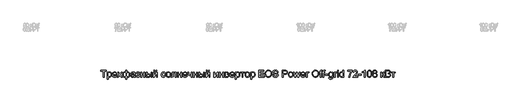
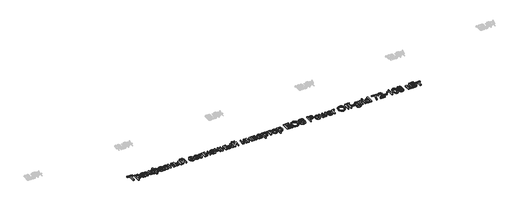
# One storey, part 17 of 26: 1 proxy.
"""IFC4 building model written with IfcOpenShell, lengths in millimetres."""

from ifc_helpers import new_model, si_unit, origin, origin_with_axes, place, context, project, spatial, polyline, outline, extrude, element, save

model = new_model("IFC4")

# Units and contexts
model_context = context("Model", 3, world=origin())
ifc_project = project(units=[si_unit("LENGTHUNIT", "METRE", prefix="MILLI")], contexts=[model_context])

# Site, building, storey
site = spatial("IfcSite", under=ifc_project)
building = spatial("IfcBuilding", under=site)
storey = spatial("IfcBuildingStorey", under=building, Name="Этаж 01", Elevation=0.0)

# Proxy
placement = place(None, origin())
element("IfcBuildingElementProxy", 1, Name="150 мм Arial", ObjectType="150 мм Arial", at=placement, inside=storey, context=model_context, shape_type="SweptSolid", body=[
    extrude(outline(polyline([(3527.3041906, -12495.0508328), (3527.3041906, -12363.2019258), (3477.8608505, -12363.2019258), (3477.8608505, -12344.3663676), (3595.5830889, -12344.3663676), (3595.5830889, -12363.2019258), (3546.1397488, -12363.2019258), (3546.1397488, -12495.0508328), (3527.3041906, -12495.0508328)])), origin_with_axes(), (0.0, 0.0, 1.0), 20.0),
    extrude(outline(polyline([(3614.4186471, -12537.4308387), (3614.4186471, -12384.3919287), (3633.2542052, -12384.3919287), (3633.2542052, -12402.8596048), (3646.2772278, -12387.2430141), (3663.8619872, -12382.0374839), (3676.5999013, -12383.8584998), (3687.7375287, -12389.3215474), (3696.8058199, -12398.095533), (3703.3357253, -12409.8493627), (3708.5964378, -12438.8752522), (3707.1111143, -12454.983885), (3702.6551436, -12469.3910637), (3695.3710801, -12481.3656226), (3685.401478, -12490.1763964), (3673.7902026, -12495.5980573), (3661.5811188, -12497.4052776), (3645.191976, -12492.5676294), (3633.2542052, -12480.335553), (3633.2542052, -12537.4308387), (3614.4186471, -12537.4308387)]), holes=[polyline([(3633.2542052, -12440.6042975), (3635.2913518, -12457.4900811), (3641.4027914, -12469.2990932), (3650.4204988, -12476.2520629), (3661.1764486, -12478.5697194), (3672.1071424, -12476.1692894), (3681.3547761, -12468.9679994), (3687.6593538, -12456.726726), (3689.7608797, -12439.206346), (3687.7099375, -12422.4125329), (3681.5571112, -12410.4379739), (3672.5531993, -12403.264275), (3661.9490008, -12400.8730421), (3651.3034156, -12403.4160263), (3641.9546144, -12411.0449792), (3635.4293075, -12423.5207774), (3633.2542052, -12440.6042975)])]), origin_with_axes(), (0.0, 0.0, 1.0), 20.0),
    extrude(outline(polyline([(3807.2623889, -12462.0886061), (3825.7300651, -12464.4430508), (3819.0759995, -12478.3581873), (3808.4580054, -12488.7600507), (3794.1152061, -12495.2439709), (3776.2867249, -12497.4052776), (3754.1862141, -12493.6758739), (3737.1808689, -12482.4876627), (3726.337547, -12464.567211), (3722.7231064, -12440.6410857), (3726.3743352, -12415.9102186), (3737.3280216, -12397.4149513), (3754.1034406, -12385.8818508), (3775.2198672, -12382.0374839), (3795.6787046, -12385.8726537), (3812.0264608, -12397.3781631), (3822.7456224, -12415.8366422), (3826.3186763, -12440.5307211), (3826.2083117, -12445.6074927), (3741.5586646, -12445.6074927), (3744.8190188, -12459.7065701), (3752.3927894, -12470.0716453), (3763.3234831, -12476.4452009), (3776.6546069, -12478.5697194), (3795.1222831, -12474.6333821), (3807.2623889, -12462.0886061)]), holes=[polyline([(3741.5586646, -12426.7719345), (3807.4831181, -12426.7719345), (3804.9355353, -12416.8207265), (3799.9415372, -12409.7022099), (3788.9602597, -12403.080334), (3775.1462908, -12400.8730421), (3762.4497634, -12402.6342771), (3751.951331, -12407.9179823), (3744.6534719, -12416.1539404), (3741.5586646, -12426.7719345)])]), origin_with_axes(), (0.0, 0.0, 1.0), 20.0),
    extrude(outline(polyline([(3833.3820106, -12495.0508328), (3873.6283009, -12439.4270752), (3835.7364554, -12384.3919287), (3858.3979863, -12384.3919287), (3876.6817214, -12410.8794323), (3885.2165837, -12423.3874202), (3892.6110118, -12413.1603007), (3913.4331327, -12384.3919287), (3936.0946636, -12384.3919287), (3896.2898318, -12439.4270752), (3934.6231357, -12495.0508328), (3911.9616048, -12495.0508328), (3888.8954037, -12461.6103595), (3884.6647607, -12455.5035183), (3856.0435415, -12495.0508328), (3833.3820106, -12495.0508328)])), origin_with_axes(), (0.0, 0.0, 1.0), 20.0),
    extrude(outline(polyline([(4014.6742578, -12344.3663676), (4033.509816, -12344.3663676), (4033.509816, -12395.0237183), (4045.4843749, -12385.2564514), (4059.519073, -12382.0374839), (4076.0047849, -12386.1301711), (4088.6737211, -12398.4082327), (4096.7441324, -12416.8943029), (4099.4342695, -12439.6110161), (4096.5371988, -12463.0221066), (4087.8459867, -12481.4575931), (4074.8505552, -12493.4183565), (4059.0408264, -12497.4052776), (4047.52612, -12495.5658676), (4033.509816, -12485.5226891), (4033.509816, -12537.4308387), (4014.6742578, -12537.4308387), (4014.6742578, -12485.5226891), (4002.6445166, -12494.4254334), (3988.4074834, -12497.4052776), (3972.6253458, -12493.5976989), (3958.9769237, -12482.174963), (3949.5407506, -12463.6613016), (3946.3953595, -12438.5809466), (3949.2418464, -12416.4988298), (3957.7813073, -12398.2978681), (3971.1308252, -12386.10258), (3988.4074834, -12382.0374839), (4002.9940045, -12385.2564514), (4014.6742578, -12395.0237183), (4014.6742578, -12344.3663676)]), holes=[polyline([(3965.2309177, -12438.1762764), (3967.1163129, -12456.6531496), (3972.7724986, -12469.1151522), (3981.2245874, -12476.2060776), (3991.4976921, -12478.5697194), (4001.7202131, -12476.2198732), (4008.990481, -12469.1703345), (4013.3360871, -12457.4211032), (4014.7846224, -12440.9721795), (4013.2625107, -12423.4288069), (4008.6961754, -12410.8978264), (4001.0580255, -12403.3792381), (3990.3204697, -12400.8730421), (3980.2405031, -12403.3194573), (3972.2206756, -12410.6587031), (3966.9783571, -12422.430927), (3965.2309177, -12438.1762764)]), polyline([(4033.3994514, -12440.0524745), (4034.9675484, -12459.1225575), (4039.6718394, -12470.7154388), (4046.7397722, -12476.6061493), (4055.3987947, -12478.5697194), (4065.0786897, -12476.1554938), (4073.2226773, -12468.9128171), (4078.7547028, -12456.5841717), (4080.5987113, -12438.9120404), (4078.8972571, -12422.1550155), (4073.7928944, -12410.2908211), (4066.0213873, -12403.2274868), (4056.3184997, -12400.8730421), (4046.325905, -12403.3240558), (4039.1568046, -12410.6770972), (4034.8387897, -12422.9229691), (4033.3994514, -12440.0524745)])]), origin_with_axes(), (0.0, 0.0, 1.0), 20.0),
    extrude(outline(polyline([(4193.6120603, -12480.9241642), (4175.3467192, -12493.6896694), (4155.1683918, -12497.4052776), (4139.4276409, -12495.1703945), (4127.8163654, -12488.4657451), (4120.6564621, -12478.2846109), (4118.2698277, -12465.6202732), (4121.8750712, -12450.7210524), (4131.3480326, -12439.9053217), (4144.5366021, -12433.7249042), (4160.8337745, -12430.8922129), (4193.5016957, -12424.4174897), (4193.6120603, -12420.223635), (4192.3152762, -12411.8175314), (4188.4249241, -12406.3176956), (4179.7245149, -12402.2342054), (4167.6028032, -12400.8730421), (4148.5465159, -12404.4966797), (4139.4598306, -12417.3541554), (4120.6242724, -12414.9997107), (4128.7728586, -12396.6056109), (4145.1803956, -12385.8266685), (4170.0308244, -12382.0374839), (4192.8579022, -12385.3852101), (4205.7521661, -12393.7913136), (4211.5279134, -12406.575213), (4212.4476184, -12423.0563264), (4212.4476184, -12446.4904095), (4213.4041116, -12479.2135129), (4217.156508, -12495.0508328), (4198.3209498, -12495.0508328), (4193.6120603, -12480.9241642)]), holes=[polyline([(4193.6120603, -12443.2530479), (4163.2250075, -12449.0287952), (4147.0198056, -12452.0822158), (4139.6805598, -12457.0486227), (4137.1053858, -12464.295898), (4142.7155862, -12474.4862293), (4159.1783055, -12478.5697194), (4178.2345929, -12474.063165), (4190.5218515, -12463.1554638), (4193.5016957, -12448.5873368), (4193.6120603, -12443.2530479)])]), origin_with_axes(), (0.0, 0.0, 1.0), 20.0),
    extrude(outline(polyline([(4264.2454033, -12445.6074927), (4264.2454033, -12426.7719345), (4279.1078359, -12426.0361705), (4286.6126286, -12422.1182273), (4290.1442958, -12413.9328529), (4285.4170122, -12404.4231033), (4273.221724, -12400.8730421), (4260.6217657, -12404.4047092), (4252.4731795, -12414.9997107), (4231.2831766, -12412.6452659), (4236.902574, -12399.2543613), (4245.4466334, -12389.6894294), (4256.9153546, -12383.9504703), (4271.3087376, -12382.0374839), (4287.054087, -12384.368936), (4298.9734637, -12391.3632925), (4306.4782564, -12401.5950105), (4308.979854, -12413.6385473), (4305.4205957, -12425.3371947), (4294.7428207, -12434.3870918), (4307.1956263, -12446.1225275), (4311.3342987, -12463.008311), (4308.708541, -12476.8728637), (4300.8312678, -12487.8587398), (4288.235908, -12495.0186431), (4271.4558904, -12497.4052776), (4255.0437549, -12495.1979856), (4242.4851833, -12488.5761097), (4233.7801756, -12477.5396499), (4228.9287318, -12462.0886061), (4250.1187347, -12459.7341613), (4258.6168088, -12473.6401007), (4273.2585122, -12478.5697194), (4287.0172988, -12473.8424358), (4292.4987406, -12461.7575123), (4289.0958321, -12451.8614866), (4281.8485568, -12446.5639859), (4267.9242233, -12445.4971281), (4264.2454033, -12445.6074927)])), origin_with_axes(), (0.0, 0.0, 1.0), 20.0),
    extrude(outline(polyline([(4334.8787464, -12384.3919287), (4353.7143046, -12384.3919287), (4353.7143046, -12426.7719345), (4403.1576447, -12426.7719345), (4403.1576447, -12384.3919287), (4421.9932029, -12384.3919287), (4421.9932029, -12495.0508328), (4403.1576447, -12495.0508328), (4403.1576447, -12445.6074927), (4353.7143046, -12445.6074927), (4353.7143046, -12495.0508328), (4334.8787464, -12495.0508328), (4334.8787464, -12384.3919287)])), origin_with_axes(), (0.0, 0.0, 1.0), 20.0),
    extrude(outline(polyline([(4553.8421099, -12384.3919287), (4572.6776681, -12384.3919287), (4572.6776681, -12495.0508328), (4553.8421099, -12495.0508328), (4553.8421099, -12384.3919287)])), origin_with_axes(), (0.0, 0.0, 1.0), 20.0),
    extrude(outline(polyline([(4450.2465401, -12384.3919287), (4469.0820983, -12384.3919287), (4469.0820983, -12424.4174897), (4492.3690285, -12424.4174897), (4512.4967722, -12426.776533), (4527.4097886, -12433.8536629), (4536.6390281, -12445.0786623), (4539.7154413, -12459.8813141), (4537.1356688, -12473.3595907), (4529.3963514, -12484.7317429), (4515.9916512, -12492.4710603), (4496.4157305, -12495.0508328), (4450.2465401, -12495.0508328), (4450.2465401, -12384.3919287)]), holes=[polyline([(4469.0820983, -12476.2152747), (4488.4326912, -12476.2152747), (4513.4118787, -12472.2605432), (4519.0128821, -12467.1975673), (4520.8798832, -12459.9181023), (4515.3432591, -12448.3298194), (4506.4635075, -12444.5222408), (4490.8975006, -12443.2530479), (4469.0820983, -12443.2530479), (4469.0820983, -12476.2152747)])]), origin_with_axes(), (0.0, 0.0, 1.0), 20.0),
    extrude(outline(polyline([(4600.9310053, -12384.3919287), (4619.7665635, -12384.3919287), (4619.7665635, -12468.7840584), (4666.0461185, -12384.3919287), (4690.3999066, -12384.3919287), (4690.3999066, -12495.0508328), (4671.5643484, -12495.0508328), (4671.5643484, -12411.1737379), (4625.579099, -12495.0508328), (4600.9310053, -12495.0508328), (4600.9310053, -12384.3919287)])), origin_with_axes(), (0.0, 0.0, 1.0), 20.0),
    extrude(outline(polyline([(4662.1465693, -12344.3663676), (4676.2732379, -12344.3663676), (4673.233613, -12356.4282985), (4667.1313704, -12365.3172472), (4658.2424216, -12370.7940904), (4646.8426783, -12372.6197048), (4634.4726462, -12370.807886), (4624.8801232, -12365.3724295), (4618.3226266, -12356.4972764), (4615.0576739, -12344.3663676), (4629.1843426, -12344.3663676), (4634.4818433, -12354.9797632), (4645.1504211, -12358.4930362), (4656.8490686, -12355.0901278), (4662.1465693, -12344.3663676)])), origin_with_axes(), (0.0, 0.0, 1.0), 20.0),
    extrude(outline(polyline([(4848.1477061, -12455.0252717), (4866.9832642, -12457.3797165), (4861.7317488, -12474.1321429), (4851.8633142, -12486.791882), (4838.3068627, -12494.7519287), (4821.9912962, -12497.4052776), (4801.9555231, -12493.703465), (4786.2883486, -12482.5980273), (4776.1761923, -12464.576408), (4772.8054735, -12440.1260509), (4774.2448118, -12423.3644275), (4778.5628267, -12408.8376873), (4785.8284961, -12397.1068501), (4796.1107979, -12388.7329362), (4808.4118521, -12383.711347), (4821.7337788, -12382.0374839), (4837.6492736, -12384.3367464), (4850.3733922, -12391.2345338), (4859.5014642, -12402.3629641), (4864.6288195, -12417.3541554), (4845.7932613, -12419.7086002), (4837.0560639, -12405.6003257), (4821.8809316, -12400.8730421), (4809.7086361, -12403.1998957), (4800.0471352, -12410.1804565), (4793.7425575, -12422.1918037), (4791.6410316, -12439.6110161), (4793.6965723, -12457.2647534), (4799.8631942, -12469.3174873), (4809.3499512, -12476.2566614), (4821.3658968, -12478.5697194), (4831.1193682, -12477.1257826), (4839.1162031, -12472.7939721), (4844.9333372, -12465.4639234), (4848.1477061, -12455.0252717)])), origin_with_axes(), (0.0, 0.0, 1.0), 20.0),
    extrude(outline(polyline([(4878.7554881, -12439.7213807), (4882.8297812, -12413.040739), (4895.0526605, -12394.2879543), (4910.1542164, -12385.1001015), (4928.2356164, -12382.0374839), (4948.0230693, -12385.7668876), (4963.8281995, -12396.9550988), (4974.1886762, -12414.7192007), (4977.6421684, -12438.1762764), (4976.1154581, -12457.2049726), (4971.5353273, -12471.6903261), (4964.0351331, -12482.5382465), (4953.7482328, -12490.654643), (4941.529952, -12495.7176189), (4928.2356164, -12497.4052776), (4908.2090403, -12493.6896694), (4892.4223042, -12482.542845), (4882.1721921, -12464.4062626), (4878.7554881, -12439.7213807)]), holes=[polyline([(4897.5910462, -12439.6845925), (4899.7707471, -12456.7313245), (4906.3098495, -12468.8760289), (4916.1506929, -12476.1462968), (4928.2356164, -12478.5697194), (4940.2653577, -12476.1325012), (4950.0878069, -12468.8208466), (4956.6269094, -12456.5151938), (4958.8066102, -12439.0959814), (4956.6131138, -12422.5458901), (4950.0326246, -12410.5667326), (4940.1963798, -12403.2964647), (4928.2356164, -12400.8730421), (4916.1506929, -12403.2872677), (4906.3098495, -12410.5299444), (4899.7707471, -12422.6470576), (4897.5910462, -12439.6845925)])]), origin_with_axes(), (0.0, 0.0, 1.0), 20.0),
    extrude(outline(polyline([(5008.2499504, -12384.3919287), (5093.0099621, -12384.3919287), (5093.0099621, -12494.9404682), (5074.1744039, -12494.9404682), (5074.1744039, -12403.2274868), (5027.0855085, -12403.2274868), (5027.0855085, -12456.0185531), (5025.8163157, -12480.3723412), (5018.8449518, -12490.654643), (5002.3638385, -12495.0508328), (4987.0599475, -12494.0943396), (4987.0599475, -12476.2152747), (4995.4844452, -12476.2152747), (5004.0009133, -12475.0564464), (5007.4038218, -12471.3776264), (5008.2499504, -12454.9516953), (5008.2499504, -12384.3919287)])), origin_with_axes(), (0.0, 0.0, 1.0), 20.0),
    extrude(outline(polyline([(5121.2632993, -12384.3919287), (5140.0988575, -12384.3919287), (5140.0988575, -12426.7719345), (5189.5421976, -12426.7719345), (5189.5421976, -12384.3919287), (5208.3777558, -12384.3919287), (5208.3777558, -12495.0508328), (5189.5421976, -12495.0508328), (5189.5421976, -12445.6074927), (5140.0988575, -12445.6074927), (5140.0988575, -12495.0508328), (5121.2632993, -12495.0508328), (5121.2632993, -12384.3919287)])), origin_with_axes(), (0.0, 0.0, 1.0), 20.0),
    extrude(outline(polyline([(5314.1070412, -12462.0886061), (5332.5747173, -12464.4430508), (5325.9206517, -12478.3581873), (5315.3026577, -12488.7600507), (5300.9598584, -12495.2439709), (5283.1313772, -12497.4052776), (5261.0308663, -12493.6758739), (5244.0255211, -12482.4876627), (5233.1821993, -12464.567211), (5229.5677587, -12440.6410857), (5233.2189875, -12415.9102186), (5244.1726739, -12397.4149513), (5260.9480929, -12385.8818508), (5282.0645194, -12382.0374839), (5302.5233569, -12385.8726537), (5318.871113, -12397.3781631), (5329.5902746, -12415.8366422), (5333.1633285, -12440.5307211), (5333.0529639, -12445.6074927), (5248.4033168, -12445.6074927), (5251.663671, -12459.7065701), (5259.2374416, -12470.0716453), (5270.1681354, -12476.4452009), (5283.4992592, -12478.5697194), (5301.9669353, -12474.6333821), (5314.1070412, -12462.0886061)]), holes=[polyline([(5248.4033168, -12426.7719345), (5314.3277704, -12426.7719345), (5311.7801876, -12416.8207265), (5306.7861895, -12409.7022099), (5295.8049119, -12403.080334), (5281.990943, -12400.8730421), (5269.2944156, -12402.6342771), (5258.7959832, -12407.9179823), (5251.4981241, -12416.1539404), (5248.4033168, -12426.7719345)])]), origin_with_axes(), (0.0, 0.0, 1.0), 20.0),
    extrude(outline(polyline([(5344.9355524, -12384.3919287), (5363.7711105, -12384.3919287), (5363.7711105, -12405.6187198), (5365.2978208, -12425.5211357), (5372.6370666, -12436.3000782), (5387.2051936, -12440.8986031), (5413.2144507, -12435.1964322), (5413.2144507, -12384.3919287), (5432.0500088, -12384.3919287), (5432.0500088, -12495.0508328), (5413.2144507, -12495.0508328), (5413.2144507, -12453.2594382), (5382.1652103, -12459.7341613), (5370.774664, -12458.0465026), (5360.8096605, -12452.9835267), (5353.0427518, -12445.4741354), (5348.2464903, -12436.447231), (5344.9355524, -12414.9261343), (5344.9355524, -12384.3919287)])), origin_with_axes(), (0.0, 0.0, 1.0), 20.0),
    extrude(outline(polyline([(5460.3033461, -12384.3919287), (5479.1389042, -12384.3919287), (5479.1389042, -12426.7719345), (5528.5822444, -12426.7719345), (5528.5822444, -12384.3919287), (5547.4178025, -12384.3919287), (5547.4178025, -12495.0508328), (5528.5822444, -12495.0508328), (5528.5822444, -12445.6074927), (5479.1389042, -12445.6074927), (5479.1389042, -12495.0508328), (5460.3033461, -12495.0508328), (5460.3033461, -12384.3919287)])), origin_with_axes(), (0.0, 0.0, 1.0), 20.0),
    extrude(outline(polyline([(5679.2667096, -12384.3919287), (5698.1022677, -12384.3919287), (5698.1022677, -12495.0508328), (5679.2667096, -12495.0508328), (5679.2667096, -12384.3919287)])), origin_with_axes(), (0.0, 0.0, 1.0), 20.0),
    extrude(outline(polyline([(5575.6711397, -12384.3919287), (5594.5066979, -12384.3919287), (5594.5066979, -12424.4174897), (5617.7936282, -12424.4174897), (5637.9213719, -12426.776533), (5652.8343882, -12433.8536629), (5662.0636278, -12445.0786623), (5665.140041, -12459.8813141), (5662.5602685, -12473.3595907), (5654.820951, -12484.7317429), (5641.4162508, -12492.4710603), (5621.8403301, -12495.0508328), (5575.6711397, -12495.0508328), (5575.6711397, -12384.3919287)]), holes=[polyline([(5594.5066979, -12476.2152747), (5613.8572908, -12476.2152747), (5638.8364783, -12472.2605432), (5644.4374817, -12467.1975673), (5646.3044828, -12459.9181023), (5640.7678588, -12448.3298194), (5631.8881071, -12444.5222408), (5616.3221002, -12443.2530479), (5594.5066979, -12443.2530479), (5594.5066979, -12476.2152747)])]), origin_with_axes(), (0.0, 0.0, 1.0), 20.0),
    extrude(outline(polyline([(5726.355605, -12384.3919287), (5745.1911631, -12384.3919287), (5745.1911631, -12468.7840584), (5791.4707181, -12384.3919287), (5815.8245062, -12384.3919287), (5815.8245062, -12495.0508328), (5796.988948, -12495.0508328), (5796.988948, -12411.1737379), (5751.0036986, -12495.0508328), (5726.355605, -12495.0508328), (5726.355605, -12384.3919287)])), origin_with_axes(), (0.0, 0.0, 1.0), 20.0),
    extrude(outline(polyline([(5787.571169, -12344.3663676), (5801.6978376, -12344.3663676), (5798.6582126, -12356.4282985), (5792.55597, -12365.3172472), (5783.6670213, -12370.7940904), (5772.267278, -12372.6197048), (5759.8972459, -12370.807886), (5750.3047229, -12365.3724295), (5743.7472263, -12356.4972764), (5740.4822736, -12344.3663676), (5754.6089422, -12344.3663676), (5759.9064429, -12354.9797632), (5770.5750208, -12358.4930362), (5782.2736682, -12355.0901278), (5787.571169, -12344.3663676)])), origin_with_axes(), (0.0, 0.0, 1.0), 20.0),
    extrude(outline(polyline([(5902.9389627, -12384.3919287), (5921.7745208, -12384.3919287), (5921.7745208, -12468.7840584), (5968.0540758, -12384.3919287), (5992.4078639, -12384.3919287), (5992.4078639, -12495.0508328), (5973.5723057, -12495.0508328), (5973.5723057, -12411.1737379), (5927.5870563, -12495.0508328), (5902.9389627, -12495.0508328), (5902.9389627, -12384.3919287)])), origin_with_axes(), (0.0, 0.0, 1.0), 20.0),
    extrude(outline(polyline([(6020.6612011, -12384.3919287), (6039.4967593, -12384.3919287), (6039.4967593, -12426.7719345), (6088.9400994, -12426.7719345), (6088.9400994, -12384.3919287), (6107.7756576, -12384.3919287), (6107.7756576, -12495.0508328), (6088.9400994, -12495.0508328), (6088.9400994, -12445.6074927), (6039.4967593, -12445.6074927), (6039.4967593, -12495.0508328), (6020.6612011, -12495.0508328), (6020.6612011, -12384.3919287)])), origin_with_axes(), (0.0, 0.0, 1.0), 20.0),
    extrude(outline(polyline([(6136.0289948, -12384.3919287), (6177.5260839, -12384.3919287), (6200.2795853, -12386.9119203), (6213.0818787, -12396.1457584), (6218.4345617, -12412.2405957), (6215.1972002, -12425.3188006), (6205.4483273, -12434.6446092), (6218.1034679, -12444.8533346), (6223.1434513, -12462.6036408), (6219.9520749, -12476.9602357), (6212.3645088, -12487.0677935), (6200.3531617, -12493.055073), (6183.8904424, -12495.0508328), (6136.0289948, -12495.0508328), (6136.0289948, -12384.3919287)]), holes=[polyline([(6154.864553, -12426.7719345), (6173.4793819, -12426.7719345), (6188.8384552, -12425.8154413), (6196.3064597, -12421.9894686), (6199.5990036, -12415.0732871), (6198.1550667, -12409.4538896), (6193.8232562, -12405.839449), (6174.0679931, -12403.2274868), (6154.864553, -12403.2274868), (6154.864553, -12426.7719345)]), polyline([(6154.864553, -12476.2152747), (6177.9675423, -12476.2152747), (6198.4585694, -12472.8123662), (6202.6984094, -12468.1724545), (6204.3078931, -12461.0585365), (6201.0889256, -12451.9902453), (6192.7012162, -12446.7111387), (6176.1281323, -12445.6074927), (6154.864553, -12445.6074927), (6154.864553, -12476.2152747)])]), origin_with_axes(), (0.0, 0.0, 1.0), 20.0),
    extrude(outline(polyline([(6324.1638471, -12462.0886061), (6342.6315233, -12464.4430508), (6335.9774577, -12478.3581873), (6325.3594636, -12488.7600507), (6311.0166643, -12495.2439709), (6293.1881831, -12497.4052776), (6271.0876723, -12493.6758739), (6254.0823271, -12482.4876627), (6243.2390052, -12464.567211), (6239.6245646, -12440.6410857), (6243.2757934, -12415.9102186), (6254.2294799, -12397.4149513), (6271.0048988, -12385.8818508), (6292.1213254, -12382.0374839), (6312.5801628, -12385.8726537), (6328.927919, -12397.3781631), (6339.6470806, -12415.8366422), (6343.2201345, -12440.5307211), (6343.1097699, -12445.6074927), (6258.4601228, -12445.6074927), (6261.720477, -12459.7065701), (6269.2942476, -12470.0716453), (6280.2249413, -12476.4452009), (6293.5560651, -12478.5697194), (6312.0237413, -12474.6333821), (6324.1638471, -12462.0886061)]), holes=[polyline([(6258.4601228, -12426.7719345), (6324.3845763, -12426.7719345), (6321.8369935, -12416.8207265), (6316.8429954, -12409.7022099), (6305.8617179, -12403.080334), (6292.047749, -12400.8730421), (6279.3512216, -12402.6342771), (6268.8527892, -12407.9179823), (6261.5549301, -12416.1539404), (6258.4601228, -12426.7719345)])]), origin_with_axes(), (0.0, 0.0, 1.0), 20.0),
    extrude(outline(polyline([(6362.0556926, -12537.4308387), (6362.0556926, -12384.3919287), (6380.8912508, -12384.3919287), (6380.8912508, -12402.8596048), (6393.9142734, -12387.2430141), (6411.4990328, -12382.0374839), (6424.2369469, -12383.8584998), (6435.3745743, -12389.3215474), (6444.4428655, -12398.095533), (6450.9727709, -12409.8493627), (6456.2334834, -12438.8752522), (6454.7481598, -12454.983885), (6450.2921892, -12469.3910637), (6443.0081257, -12481.3656226), (6433.0385236, -12490.1763964), (6421.4272481, -12495.5980573), (6409.2181644, -12497.4052776), (6392.8290215, -12492.5676294), (6380.8912508, -12480.335553), (6380.8912508, -12537.4308387), (6362.0556926, -12537.4308387)]), holes=[polyline([(6380.8912508, -12440.6042975), (6382.9283973, -12457.4900811), (6389.039837, -12469.2990932), (6398.0575444, -12476.2520629), (6408.8134942, -12478.5697194), (6419.744188, -12476.1692894), (6428.9918217, -12468.9679994), (6435.2963994, -12456.726726), (6437.3979252, -12439.206346), (6435.3469831, -12422.4125329), (6429.1941568, -12410.4379739), (6420.1902449, -12403.264275), (6409.5860464, -12400.8730421), (6398.9404612, -12403.4160263), (6389.59166, -12411.0449792), (6383.0663531, -12423.5207774), (6380.8912508, -12440.6042975)])]), origin_with_axes(), (0.0, 0.0, 1.0), 20.0),
    extrude(outline(polyline([(6468.0057072, -12384.3919287), (6557.4746085, -12384.3919287), (6557.4746085, -12403.2274868), (6522.1579369, -12403.2274868), (6522.1579369, -12495.0508328), (6503.3223788, -12495.0508328), (6503.3223788, -12403.2274868), (6468.0057072, -12403.2274868), (6468.0057072, -12384.3919287)])), origin_with_axes(), (0.0, 0.0, 1.0), 20.0),
    extrude(outline(polyline([(6569.2468323, -12439.7213807), (6573.3211254, -12413.040739), (6585.5440047, -12394.2879543), (6600.6455606, -12385.1001015), (6618.7269607, -12382.0374839), (6638.5144135, -12385.7668876), (6654.3195437, -12396.9550988), (6664.6800204, -12414.7192007), (6668.1335126, -12438.1762764), (6666.6068023, -12457.2049726), (6662.0266715, -12471.6903261), (6654.5264773, -12482.5382465), (6644.239577, -12490.654643), (6632.0212963, -12495.7176189), (6618.7269607, -12497.4052776), (6598.7003846, -12493.6896694), (6582.9136484, -12482.542845), (6572.6635364, -12464.4062626), (6569.2468323, -12439.7213807)]), holes=[polyline([(6588.0823905, -12439.6845925), (6590.2620913, -12456.7313245), (6596.8011938, -12468.8760289), (6606.6420371, -12476.1462968), (6618.7269607, -12478.5697194), (6630.7567019, -12476.1325012), (6640.5791512, -12468.8208466), (6647.1182536, -12456.5151938), (6649.2979545, -12439.0959814), (6647.1044581, -12422.5458901), (6640.5239689, -12410.5667326), (6630.687724, -12403.2964647), (6618.7269607, -12400.8730421), (6606.6420371, -12403.2872677), (6596.8011938, -12410.5299444), (6590.2620913, -12422.6470576), (6588.0823905, -12439.6845925)])]), origin_with_axes(), (0.0, 0.0, 1.0), 20.0),
    extrude(outline(polyline([(6689.3235155, -12537.4308387), (6689.3235155, -12384.3919287), (6708.1590737, -12384.3919287), (6708.1590737, -12402.8596048), (6721.1820963, -12387.2430141), (6738.7668557, -12382.0374839), (6751.5047698, -12383.8584998), (6762.6423972, -12389.3215474), (6771.7106884, -12398.095533), (6778.2405938, -12409.8493627), (6783.5013063, -12438.8752522), (6782.0159828, -12454.983885), (6777.5600121, -12469.3910637), (6770.2759486, -12481.3656226), (6760.3063465, -12490.1763964), (6748.695071, -12495.5980573), (6736.4859873, -12497.4052776), (6720.0968444, -12492.5676294), (6708.1590737, -12480.335553), (6708.1590737, -12537.4308387), (6689.3235155, -12537.4308387)]), holes=[polyline([(6708.1590737, -12440.6042975), (6710.1962202, -12457.4900811), (6716.3076599, -12469.2990932), (6725.3253673, -12476.2520629), (6736.0813171, -12478.5697194), (6747.0120109, -12476.1692894), (6756.2596446, -12468.9679994), (6762.5642223, -12456.726726), (6764.6657482, -12439.206346), (6762.614806, -12422.4125329), (6756.4619797, -12410.4379739), (6747.4580678, -12403.264275), (6736.8538693, -12400.8730421), (6726.2082841, -12403.4160263), (6716.8594829, -12411.0449792), (6710.334176, -12423.5207774), (6708.1590737, -12440.6042975)])]), origin_with_axes(), (0.0, 0.0, 1.0), 20.0),
    extrude(outline(polyline([(6865.9068732, -12495.0508328), (6865.9068732, -12344.3663676), (6974.2113326, -12344.3663676), (6974.2113326, -12363.2019258), (6884.7424314, -12363.2019258), (6884.7424314, -12407.9363764), (6969.5024431, -12407.9363764), (6969.5024431, -12426.7719345), (6884.7424314, -12426.7719345), (6884.7424314, -12476.2152747), (6976.5657774, -12476.2152747), (6976.5657774, -12495.0508328), (6865.9068732, -12495.0508328)])), origin_with_axes(), (0.0, 0.0, 1.0), 20.0),
    extrude(outline(polyline([(6997.7557803, -12421.695163), (7002.7773695, -12388.3742513), (7009.0543561, -12374.7557197), (7017.8421372, -12363.1651376), (7040.843959, -12347.3002265), (7069.6767104, -12342.0119228), (7089.4411706, -12344.4951263), (7107.1638857, -12351.9447367), (7121.8791655, -12363.8365222), (7132.6213197, -12379.6462509), (7139.1880133, -12398.6105678), (7141.3769112, -12419.9661176), (7139.0730502, -12441.606776), (7132.1614672, -12460.8378073), (7121.0238398, -12476.6751272), (7106.0418456, -12488.1346513), (7088.4708818, -12495.087621), (7069.5663458, -12497.4052776), (7049.4983829, -12494.8438992), (7031.6745003, -12487.159764), (7016.9960086, -12475.0472493), (7006.364219, -12459.2007324), (6999.90789, -12440.967581), (6997.7557803, -12421.695163)]), holes=[polyline([(7016.5913385, -12421.879104), (7020.3575304, -12445.4511428), (7031.6561062, -12463.4129812), (7048.6384588, -12474.7805349), (7069.4559812, -12478.5697194), (7090.5770062, -12474.7437467), (7107.58695, -12463.2658284), (7118.8027523, -12444.752167), (7122.5413531, -12419.8189648), (7120.9410664, -12403.1447134), (7116.1402064, -12388.7329362), (7108.2629331, -12376.9469168), (7097.4334069, -12368.1499386), (7084.3689975, -12362.6730954), (7069.787075, -12360.847481), (7049.5259741, -12364.3653526), (7032.2998996, -12374.9189673), (7020.5184788, -12393.6947446), (7016.5913385, -12421.879104)])]), origin_with_axes(), (0.0, 0.0, 1.0), 20.0),
    extrude(outline(polyline([(7160.2124694, -12443.2530479), (7179.0480275, -12443.2530479), (7185.1180804, -12462.1070002), (7199.9437249, -12474.0263768), (7222.5316794, -12478.5697194), (7242.2133661, -12475.1300228), (7254.923689, -12465.6754555), (7259.0991497, -12453.038709), (7255.9721527, -12441.2848792), (7243.1698593, -12432.7316228), (7215.7442565, -12425.5395298), (7186.2217264, -12416.2505095), (7170.2004655, -12402.2342054), (7164.9213589, -12383.5090119), (7166.5538353, -12372.4771506), (7171.4512643, -12362.1902503), (7179.4848874, -12353.471447), (7190.5259458, -12347.1438767), (7218.4481892, -12342.0119228), (7248.2466308, -12347.383), (7259.6693668, -12354.0140729), (7268.1122586, -12363.1651376), (7273.4557445, -12374.2659768), (7275.5802631, -12386.7463734), (7256.7447049, -12386.7463734), (7253.2866142, -12375.5075785), (7246.076127, -12367.3957805), (7234.8097409, -12362.4845559), (7219.1839532, -12360.847481), (7203.1902835, -12362.4661618), (7192.218203, -12367.3222041), (7185.8722385, -12374.4683119), (7183.7569171, -12382.9571889), (7185.2560362, -12390.1952671), (7189.7533936, -12396.0169997), (7220.5083284, -12406.5384248), (7253.8384371, -12415.9929921), (7264.5759929, -12422.8264001), (7272.06699, -12431.2600949), (7276.4677784, -12441.2021058), (7277.9347078, -12452.5604624), (7276.2470492, -12464.1717379), (7271.1840732, -12475.0932346), (7262.9527136, -12484.4926196), (7251.7599039, -12491.5375598), (7238.3000214, -12495.9383481), (7223.2674433, -12497.4052776), (7204.8135628, -12495.823385), (7189.6246349, -12491.0777073), (7177.5259158, -12483.1498503), (7168.3426615, -12472.0214199), (7162.4473525, -12458.4649684), (7160.2124694, -12443.2530479)])), origin_with_axes(), (0.0, 0.0, 1.0), 20.0),
    extrude(outline(polyline([(7365.0491643, -12495.0508328), (7365.0491643, -12344.3663676), (7420.8936512, -12344.3663676), (7443.4080293, -12345.8011074), (7461.7101585, -12352.8460476), (7473.5743529, -12367.4141746), (7478.0625132, -12387.960384), (7475.0320853, -12405.7198873), (7465.9408015, -12420.5179406), (7448.9400548, -12430.5059368), (7422.1812381, -12433.8352688), (7383.8847224, -12433.8352688), (7383.8847224, -12495.0508328), (7365.0491643, -12495.0508328)]), holes=[polyline([(7383.8847224, -12414.9997107), (7423.2848841, -12414.9997107), (7439.9867267, -12413.2706653), (7451.0231866, -12408.0835292), (7457.1760129, -12399.760199), (7459.2269551, -12388.6225716), (7454.3893068, -12373.024375), (7441.6789839, -12364.4895127), (7422.8434257, -12363.2019258), (7383.8847224, -12363.2019258), (7383.8847224, -12414.9997107)])]), origin_with_axes(), (0.0, 0.0, 1.0), 20.0),
    extrude(outline(polyline([(7496.8980714, -12439.7213807), (7500.9723645, -12413.040739), (7513.1952437, -12394.2879543), (7528.2967996, -12385.1001015), (7546.3781997, -12382.0374839), (7566.1656525, -12385.7668876), (7581.9707827, -12396.9550988), (7592.3312594, -12414.7192007), (7595.7847517, -12438.1762764), (7594.2580414, -12457.2049726), (7589.6779105, -12471.6903261), (7582.1777164, -12482.5382465), (7571.8908161, -12490.654643), (7559.6725353, -12495.7176189), (7546.3781997, -12497.4052776), (7526.3516236, -12493.6896694), (7510.5648875, -12482.542845), (7500.3147754, -12464.4062626), (7496.8980714, -12439.7213807)]), holes=[polyline([(7515.7336295, -12439.6845925), (7517.9133303, -12456.7313245), (7524.4524328, -12468.8760289), (7534.2932762, -12476.1462968), (7546.3781997, -12478.5697194), (7558.407941, -12476.1325012), (7568.2303902, -12468.8208466), (7574.7694927, -12456.5151938), (7576.9491935, -12439.0959814), (7574.7556971, -12422.5458901), (7568.1752079, -12410.5667326), (7558.3389631, -12403.2964647), (7546.3781997, -12400.8730421), (7534.2932762, -12403.2872677), (7524.4524328, -12410.5299444), (7517.9133303, -12422.6470576), (7515.7336295, -12439.6845925)])]), origin_with_axes(), (0.0, 0.0, 1.0), 20.0),
    extrude(outline(polyline([(7635.3320661, -12495.0508328), (7601.6708636, -12384.3919287), (7621.2421857, -12384.3919287), (7640.3352613, -12448.9552188), (7646.0374322, -12472.0214199), (7650.7095335, -12449.8013474), (7665.9030599, -12384.3919287), (7688.3438616, -12384.3919287), (7703.4638116, -12449.6174064), (7707.6208782, -12469.7405516), (7713.5805665, -12448.5137604), (7732.7104303, -12384.3919287), (7752.3553288, -12384.3919287), (7718.4366089, -12495.0508328), (7695.6647134, -12495.0508328), (7681.2069509, -12430.1564489), (7677.0130962, -12409.9229391), (7658.361479, -12495.0508328), (7635.3320661, -12495.0508328)])), origin_with_axes(), (0.0, 0.0, 1.0), 20.0),
    extrude(outline(polyline([(7842.7807232, -12462.0886061), (7861.2483994, -12464.4430508), (7854.5943338, -12478.3581873), (7843.9763397, -12488.7600507), (7829.6335404, -12495.2439709), (7811.8050592, -12497.4052776), (7789.7045484, -12493.6758739), (7772.6992031, -12482.4876627), (7761.8558813, -12464.567211), (7758.2414407, -12440.6410857), (7761.8926695, -12415.9102186), (7772.8463559, -12397.4149513), (7789.6217749, -12385.8818508), (7810.7382014, -12382.0374839), (7831.1970389, -12385.8726537), (7847.5447951, -12397.3781631), (7858.2639567, -12415.8366422), (7861.8370106, -12440.5307211), (7861.726646, -12445.6074927), (7777.0769989, -12445.6074927), (7780.3373531, -12459.7065701), (7787.9111236, -12470.0716453), (7798.8418174, -12476.4452009), (7812.1729412, -12478.5697194), (7830.6406174, -12474.6333821), (7842.7807232, -12462.0886061)]), holes=[polyline([(7777.0769989, -12426.7719345), (7843.0014524, -12426.7719345), (7840.4538696, -12416.8207265), (7835.4598715, -12409.7022099), (7824.478594, -12403.080334), (7810.664625, -12400.8730421), (7797.9680977, -12402.6342771), (7787.4696652, -12407.9179823), (7780.1718062, -12416.1539404), (7777.0769989, -12426.7719345)])]), origin_with_axes(), (0.0, 0.0, 1.0), 20.0),
    extrude(outline(polyline([(7880.6725687, -12495.0508328), (7880.6725687, -12384.3919287), (7897.1536821, -12384.3919287), (7897.1536821, -12400.7626775), (7908.8523296, -12385.6795157), (7920.6245534, -12382.0374839), (7939.533688, -12387.8500194), (7933.2429058, -12404.735803), (7919.999154, -12400.8730421), (7909.3489703, -12404.5886502), (7902.5615474, -12414.8893461), (7899.5081269, -12436.8886894), (7899.5081269, -12495.0508328), (7880.6725687, -12495.0508328)])), origin_with_axes(), (0.0, 0.0, 1.0), 20.0),
    extrude(outline(polyline([(8005.4581415, -12421.695163), (8010.4797307, -12388.3742513), (8016.7567173, -12374.7557197), (8025.5444984, -12363.1651376), (8048.5463202, -12347.3002265), (8077.3790715, -12342.0119228), (8097.1435317, -12344.4951263), (8114.8662469, -12351.9447367), (8129.5815267, -12363.8365222), (8140.3236809, -12379.6462509), (8146.8903745, -12398.6105678), (8149.0792724, -12419.9661176), (8146.7754114, -12441.606776), (8139.8638284, -12460.8378073), (8128.726201, -12476.6751272), (8113.7442068, -12488.1346513), (8096.173243, -12495.087621), (8077.2687069, -12497.4052776), (8057.2007441, -12494.8438992), (8039.3768614, -12487.159764), (8024.6983698, -12475.0472493), (8014.0665802, -12459.2007324), (8007.6102512, -12440.967581), (8005.4581415, -12421.695163)]), holes=[polyline([(8024.2936996, -12421.879104), (8028.0598916, -12445.4511428), (8039.3584673, -12463.4129812), (8056.3408199, -12474.7805349), (8077.1583424, -12478.5697194), (8098.2793674, -12474.7437467), (8115.2893112, -12463.2658284), (8126.5051135, -12444.752167), (8130.2437143, -12419.8189648), (8128.6434276, -12403.1447134), (8123.8425675, -12388.7329362), (8115.9652943, -12376.9469168), (8105.1357681, -12368.1499386), (8092.0713587, -12362.6730954), (8077.4894361, -12360.847481), (8057.2283353, -12364.3653526), (8040.0022608, -12374.9189673), (8028.2208399, -12393.6947446), (8024.2936996, -12421.879104)])]), origin_with_axes(), (0.0, 0.0, 1.0), 20.0),
    extrude(outline(polyline([(8285.637069, -12450.3163822), (8285.637069, -12431.4808241), (8344.4981882, -12431.4808241), (8344.4981882, -12450.3163822), (8285.637069, -12450.3163822)])), origin_with_axes(), (0.0, 0.0, 1.0), 20.0),
    extrude(outline(polyline([(8238.5481736, -12495.0508328), (8238.5481736, -12403.2274868), (8222.0670603, -12403.2274868), (8222.0670603, -12384.3919287), (8238.5481736, -12384.3919287), (8238.5481736, -12373.2451042), (8240.5347364, -12357.536543), (8250.1732447, -12346.3161422), (8269.1559556, -12342.0119228), (8286.3360448, -12344.072062), (8283.5769298, -12361.7303978), (8272.724411, -12360.847481), (8260.8602166, -12363.9744779), (8257.3837318, -12375.6363372), (8257.3837318, -12384.3919287), (8278.5737347, -12384.3919287), (8278.5737347, -12403.2274868), (8257.3837318, -12403.2274868), (8257.3837318, -12495.0508328), (8238.5481736, -12495.0508328)])), origin_with_axes(), (0.0, 0.0, 1.0), 20.0),
    extrude(outline(polyline([(8177.3326096, -12495.0508328), (8177.3326096, -12403.2274868), (8160.8514963, -12403.2274868), (8160.8514963, -12384.3919287), (8177.3326096, -12384.3919287), (8177.3326096, -12373.2451042), (8179.3191724, -12357.536543), (8188.9576807, -12346.3161422), (8207.9403916, -12342.0119228), (8225.1204808, -12344.072062), (8222.3613658, -12361.7303978), (8211.508847, -12360.847481), (8199.6446526, -12363.9744779), (8196.1681678, -12375.6363372), (8196.1681678, -12384.3919287), (8217.3581707, -12384.3919287), (8217.3581707, -12403.2274868), (8196.1681678, -12403.2274868), (8196.1681678, -12495.0508328), (8177.3326096, -12495.0508328)])), origin_with_axes(), (0.0, 0.0, 1.0), 20.0),
    extrude(outline(polyline([(8360.9793016, -12504.4686119), (8379.8148598, -12506.8230567), (8385.9217009, -12516.7558705), (8404.2054361, -12520.9497253), (8423.4824526, -12516.2040475), (8432.6795025, -12502.8867193), (8433.9670895, -12480.9241642), (8420.7049435, -12491.5191657), (8404.5365299, -12495.0508328), (8385.116959, -12490.9397515), (8370.636204, -12478.6065076), (8361.6276936, -12460.5251076), (8358.6248569, -12439.1695578), (8364.0143281, -12409.9781214), (8370.6086129, -12398.1277227), (8379.6125247, -12389.3215474), (8390.7179624, -12383.8584998), (8403.6168249, -12382.0374839), (8420.419835, -12386.1577622), (8433.9670895, -12398.5185973), (8433.9670895, -12384.3919287), (8452.8026476, -12384.3919287), (8452.8026476, -12479.9308828), (8451.5150606, -12501.990007), (8447.6522997, -12516.5167472), (8440.9982341, -12526.150657), (8431.3367332, -12533.5312895), (8418.8793291, -12538.221785), (8403.8375541, -12539.7852834), (8386.3125755, -12537.58259), (8372.5124022, -12530.9745097), (8363.6602417, -12519.9426483), (8360.9793016, -12504.4686119)]), holes=[polyline([(8377.460415, -12437.8819708), (8379.4699704, -12455.158629), (8385.4986366, -12467.0366189), (8394.5623293, -12473.9206107), (8405.676964, -12476.2152747), (8416.7088254, -12473.9344063), (8425.8185033, -12467.0918012), (8431.9299429, -12455.3655626), (8433.9670895, -12438.4337938), (8431.8701621, -12422.1044317), (8425.57938, -12410.3460034), (8416.3363449, -12403.2412824), (8405.3826584, -12400.8730421), (8394.6267086, -12403.2044942), (8385.6090012, -12410.1988506), (8379.4975616, -12421.782535), (8377.460415, -12437.8819708)])]), origin_with_axes(), (0.0, 0.0, 1.0), 20.0),
    extrude(outline(polyline([(8481.0559849, -12495.0508328), (8481.0559849, -12384.3919287), (8497.5370982, -12384.3919287), (8497.5370982, -12400.7626775), (8509.2357457, -12385.6795157), (8521.0079695, -12382.0374839), (8539.9171041, -12387.8500194), (8533.626322, -12404.735803), (8520.3825701, -12400.8730421), (8509.7323864, -12404.5886502), (8502.9449636, -12414.8893461), (8499.891543, -12436.8886894), (8499.891543, -12495.0508328), (8481.0559849, -12495.0508328)])), origin_with_axes(), (0.0, 0.0, 1.0), 20.0),
    extrude(outline(polyline([(8551.6893279, -12495.0508328), (8551.6893279, -12384.3919287), (8570.5248861, -12384.3919287), (8570.5248861, -12495.0508328), (8551.6893279, -12495.0508328)])), origin_with_axes(), (0.0, 0.0, 1.0), 20.0),
    extrude(outline(polyline([(8551.6893279, -12363.2019258), (8551.6893279, -12344.3663676), (8570.5248861, -12344.3663676), (8570.5248861, -12363.2019258), (8551.6893279, -12363.2019258)])), origin_with_axes(), (0.0, 0.0, 1.0), 20.0),
    extrude(outline(polyline([(8667.0571216, -12495.0508328), (8667.0571216, -12477.2821325), (8654.595119, -12492.3744913), (8637.3690446, -12497.4052776), (8625.1921506, -12495.5842617), (8614.0453261, -12490.1212141), (8604.6091529, -12481.3978123), (8597.5642127, -12469.7957339), (8593.1772199, -12455.7840284), (8591.714889, -12439.8317453), (8597.1043602, -12409.8493627), (8603.8366007, -12397.9575772), (8613.2543798, -12389.2111828), (8624.6449261, -12383.8309086), (8637.2954682, -12382.0374839), (8654.6594984, -12387.1694377), (8667.0571216, -12400.5051601), (8667.0571216, -12344.3663676), (8685.8926798, -12344.3663676), (8685.8926798, -12495.0508328), (8667.0571216, -12495.0508328)]), holes=[polyline([(8610.5504472, -12439.7581689), (8612.6749657, -12456.7957038), (8619.0485212, -12468.9128171), (8628.3099505, -12476.1554938), (8639.09809, -12478.5697194), (8649.881631, -12476.2658584), (8658.9085354, -12469.3542755), (8665.0199751, -12457.7062118), (8667.0571216, -12441.1929087), (8664.9831869, -12423.1390998), (8658.7613826, -12410.6219149), (8649.5045519, -12403.3102603), (8638.3255378, -12400.8730421), (8627.4270337, -12403.2136913), (8618.4966983, -12410.2356388), (8612.5370099, -12422.2975698), (8610.5504472, -12439.7581689)])]), origin_with_axes(), (0.0, 0.0, 1.0), 20.0),
    extrude(outline(polyline([(8768.2982467, -12365.5563705), (8768.2982467, -12346.7208124), (8867.184927, -12346.7208124), (8867.184927, -12361.951127), (8839.1339249, -12402.4733287), (8826.8236736, -12427.9353613), (8817.6680104, -12454.1055668), (8810.6782525, -12495.0508328), (8791.8426944, -12495.0508328), (8799.329093, -12452.5604624), (8808.0432977, -12428.1009082), (8819.8753024, -12404.5334679), (8848.3493688, -12365.5563705), (8768.2982467, -12365.5563705)])), origin_with_axes(), (0.0, 0.0, 1.0), 20.0),
    extrude(outline(polyline([(8980.1982759, -12476.2152747), (8980.1982759, -12495.0508328), (8881.3115956, -12495.0508328), (8883.3349466, -12482.0645984), (8894.7760766, -12462.070212), (8918.3573125, -12440.2364155), (8950.8780809, -12408.8560814), (8956.975725, -12398.0403507), (8959.008273, -12387.5189256), (8957.0906881, -12378.087351), (8951.3379334, -12370.246866), (8942.4949699, -12364.9631608), (8931.3067588, -12363.2019258), (8919.5575275, -12364.9217741), (8910.4294555, -12370.0813191), (8904.5387451, -12378.2758905), (8902.5015985, -12389.1008182), (8883.6660404, -12386.7463734), (8888.2323756, -12368.5270176), (8898.1054087, -12355.2188865), (8912.7701047, -12347.0794973), (8931.7114289, -12344.3663676), (8950.7907089, -12347.383), (8965.4278138, -12356.432897), (8974.7398268, -12369.9525604), (8977.8438311, -12386.3784914), (8974.496105, -12404.2391623), (8963.3676746, -12422.7068385), (8936.3835303, -12448.5137604), (8914.7152808, -12466.6319487), (8906.2172067, -12476.2152747), (8980.1982759, -12476.2152747)])), origin_with_axes(), (0.0, 0.0, 1.0), 20.0),
    extrude(outline(polyline([(8994.3249445, -12450.3163822), (8994.3249445, -12431.4808241), (9053.1860638, -12431.4808241), (9053.1860638, -12450.3163822), (8994.3249445, -12450.3163822)])), origin_with_axes(), (0.0, 0.0, 1.0), 20.0),
    extrude(outline(polyline([(9140.3005202, -12495.0508328), (9121.4649621, -12495.0508328), (9121.4649621, -12377.6229), (9103.6226853, -12390.3332229), (9083.7938458, -12399.8429725), (9083.7938458, -12382.0374839), (9111.4033895, -12364.4159363), (9128.1604144, -12344.3663676), (9140.3005202, -12344.3663676), (9140.3005202, -12495.0508328)])), origin_with_axes(), (0.0, 0.0, 1.0), 20.0),
    extrude(outline(polyline([(9185.0349708, -12420.9226108), (9186.4191268, -12396.8033475), (9190.5715949, -12377.5677177), (9197.4509882, -12362.9214157), (9207.01592, -12352.5701361), (9219.3353684, -12346.4173097), (9234.478311, -12344.3663676), (9256.4776543, -12349.2224099), (9271.6711807, -12363.2203199), (9280.5003486, -12385.5139688), (9283.9216511, -12420.9226108), (9282.5512907, -12444.9039184), (9278.4402094, -12464.0935629), (9271.6022028, -12478.7536604), (9262.0510665, -12489.1463268), (9249.7040271, -12495.3405399), (9234.478311, -12497.4052776), (9214.9069888, -12493.8184281), (9200.0445562, -12483.0578798), (9188.7873672, -12457.5728546), (9185.0349708, -12420.9226108)]), holes=[polyline([(9203.870529, -12420.8858226), (9206.0778209, -12450.5141188), (9212.6996969, -12467.6620183), (9222.5589343, -12475.8427941), (9234.478311, -12478.5697194), (9246.3976876, -12475.8335971), (9256.2569251, -12467.6252301), (9262.878801, -12450.4681335), (9265.086093, -12420.8858226), (9262.9523774, -12391.9243125), (9256.5512307, -12374.6430558), (9246.7103873, -12366.0622083), (9234.2575818, -12363.2019258), (9222.4669638, -12365.7219174), (9212.9940025, -12373.2818924), (9206.1513973, -12391.639204), (9203.870529, -12420.8858226)])]), origin_with_axes(), (0.0, 0.0, 1.0), 20.0),
    extrude(outline(polyline([(9327.8467614, -12412.0566547), (9310.6850663, -12400.3580073), (9305.1116541, -12382.1478485), (9308.1466805, -12367.4233716), (9317.2517599, -12355.2556747), (9331.4060197, -12347.0886944), (9349.5885873, -12344.3663676), (9367.8815195, -12347.1530737), (9382.2197202, -12355.5131921), (9391.4903465, -12367.8740271), (9394.5805553, -12382.6628833), (9389.0807195, -12400.4131896), (9372.397271, -12412.0566547), (9383.9901523, -12418.0301386), (9392.4284456, -12426.8271168), (9397.574195, -12438.024525), (9399.2894448, -12451.199299), (9395.8865364, -12469.2071227), (9385.677811, -12484.0879494), (9369.9140675, -12494.0759455), (9349.8461047, -12497.4052776), (9329.7781418, -12494.06215), (9314.0143983, -12484.0327671), (9303.805673, -12469.0093861), (9300.4027645, -12450.6842642), (9302.1869922, -12436.999054), (9307.5396752, -12425.7418649), (9316.1849021, -12417.2989731), (9327.8467614, -12412.0566547)]), holes=[polyline([(9319.2383227, -12450.0220766), (9322.3837137, -12464.2039275), (9333.5121441, -12474.8173231), (9349.9932575, -12478.5697194), (9362.813945, -12476.5969522), (9372.4340592, -12470.6786506), (9378.4489298, -12461.7161255), (9380.4538867, -12450.6106878), (9378.3845504, -12439.3167106), (9372.1765418, -12430.1564489), (9362.3356984, -12424.086396), (9349.3678581, -12422.063045), (9336.726513, -12424.0588048), (9327.2029679, -12430.0460843), (9321.229484, -12439.031602), (9319.2383227, -12450.0220766)]), polyline([(9323.9472122, -12382.6996715), (9325.6164768, -12390.9218341), (9330.6242704, -12397.4885277), (9338.8234404, -12401.792747), (9350.0668339, -12403.2274868), (9361.0481114, -12401.8019441), (9369.1231212, -12397.5253159), (9374.0895281, -12391.1793515), (9375.7449971, -12383.5458001), (9374.0343458, -12375.6225416), (9368.902392, -12369.0696436), (9360.7170176, -12364.6688552), (9349.8461047, -12363.2019258), (9338.9062138, -12364.6366655), (9330.734635, -12368.9408849), (9325.6440679, -12375.2500611), (9323.9472122, -12382.6996715)])]), origin_with_axes(), (0.0, 0.0, 1.0), 20.0),
    extrude(outline(polyline([(9479.340567, -12384.3919287), (9498.1761251, -12384.3919287), (9498.1761251, -12431.4808241), (9510.7944776, -12428.0963097), (9521.1319616, -12408.3778348), (9529.7220062, -12391.3632925), (9537.3003753, -12385.8266685), (9551.077556, -12384.3919287), (9554.6827996, -12384.3919287), (9554.6827996, -12403.3378514), (9549.606028, -12403.2274868), (9540.4089782, -12405.2140496), (9533.9342551, -12417.6116728), (9526.3374919, -12431.0209716), (9515.6873081, -12437.5876652), (9527.5698965, -12444.9177139), (9539.2317558, -12460.3595607), (9559.3916891, -12495.0508328), (9537.980957, -12495.0508328), (9518.2256939, -12461.0953247), (9508.29288, -12446.7295328), (9498.1761251, -12443.2530479), (9498.1761251, -12495.0508328), (9479.340567, -12495.0508328), (9479.340567, -12384.3919287)])), origin_with_axes(), (0.0, 0.0, 1.0), 20.0),
    extrude(outline(polyline([(9573.5183577, -12495.0508328), (9573.5183577, -12344.3663676), (9631.0183136, -12344.3663676), (9659.1796803, -12348.7993456), (9668.6434446, -12354.4233416), (9675.8079465, -12362.4293736), (9681.8228171, -12381.7063901), (9676.7644397, -12399.3095436), (9661.4789428, -12412.6452659), (9672.1521192, -12418.2186781), (9680.0385894, -12426.6983581), (9684.9084273, -12437.5232858), (9686.5317067, -12450.1324412), (9682.0987286, -12470.384345), (9671.1174511, -12484.8053193), (9654.7283082, -12492.4572648), (9630.5768552, -12495.0508328), (9573.5183577, -12495.0508328)]), holes=[polyline([(9592.3539159, -12405.5819316), (9626.7508824, -12405.5819316), (9646.8372394, -12403.9632508), (9658.9221629, -12396.991887), (9662.987259, -12384.7230225), (9659.1980744, -12372.4357638), (9648.3455556, -12365.1700944), (9624.1389203, -12363.2019258), (9592.3539159, -12363.2019258), (9592.3539159, -12405.5819316)]), polyline([(9592.3539159, -12476.2152747), (9630.9815254, -12476.2152747), (9644.9610412, -12475.4795107), (9656.7884473, -12471.3776264), (9664.6243338, -12463.008311), (9667.6961485, -12450.3163822), (9664.0909049, -12435.6746788), (9652.4106516, -12426.9374814), (9629.1421154, -12424.4174897), (9592.3539159, -12424.4174897), (9592.3539159, -12476.2152747)])]), origin_with_axes(), (0.0, 0.0, 1.0), 20.0),
    extrude(outline(polyline([(9700.6583753, -12384.3919287), (9790.1272765, -12384.3919287), (9790.1272765, -12403.2274868), (9754.810605, -12403.2274868), (9754.810605, -12495.0508328), (9735.9750468, -12495.0508328), (9735.9750468, -12403.2274868), (9700.6583753, -12403.2274868), (9700.6583753, -12384.3919287)])), origin_with_axes(), (0.0, 0.0, 1.0), 20.0),
])

save(model, "model.ifc")
